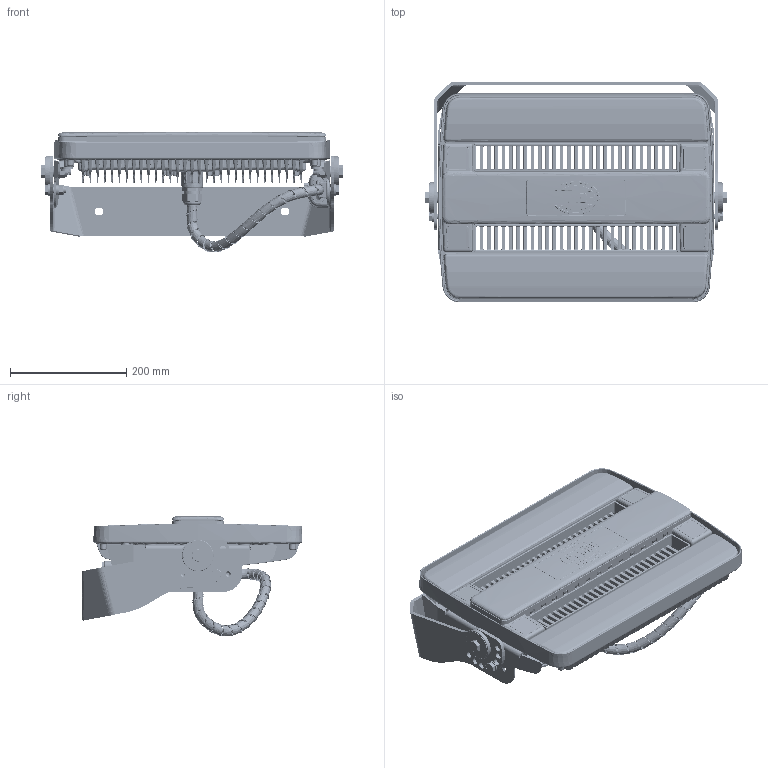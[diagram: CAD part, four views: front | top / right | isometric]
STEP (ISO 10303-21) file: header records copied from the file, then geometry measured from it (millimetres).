
FILE_DESCRIPTION(('CATIA V5 STEP Exchange','CAx-IF Rec.Pracs.--- Model Styling and Organization---1.5--- 2016-08-15','CAx-IF Rec.Pracs.---Supplemental Geometry---1.0---2011-11-01','CAx-IF Rec.Pracs.--- Composite Materials ---1.1---2010-07-15'),'2;1');
FILE_NAME('E:\tmp\ddx\2011218\HELLA_3D_data_HypaLUME_110V_230V_AC_1GJ-958-334-01.stp','2022-01-18T07:27:45+00:00',('none'),('none'),'CATIA Version 5-6 Release 2020 SP3 HF9','CATIA V5 STEP AP214 Edition 3 v2','none');
FILE_SCHEMA(('AUTOMOTIVE_DESIGN { 1 0 10303 214 3 1 1 1 }'));
Length unit declared in the file: millimetre
Products named in the file (1): 10002988275_D10_001
Bounding box: 519.8 x 379.73 x 207.65 mm (x, y, z)
Volume: 818916.9 mm3; surface area: 1780667.6 mm2
Topology: 10 solids, 41 shells, 14265 faces, 40518 edges, 25675 vertices
Faces by surface type: bspline 8150, cylinder 2765, plane 2131, torus 427, sphere 412, cone 360, extrusion 16, revolution 4
Entity records: 991095 total; most frequent: CARTESIAN_POINT 732117, ORIENTED_EDGE 79209, EDGE_CURVE 39836, VERTEX_POINT 25675, B_SPLINE_CURVE_WITH_KNOTS 20298, DIRECTION 17846, EDGE_LOOP 14655, ADVANCED_FACE 14265
